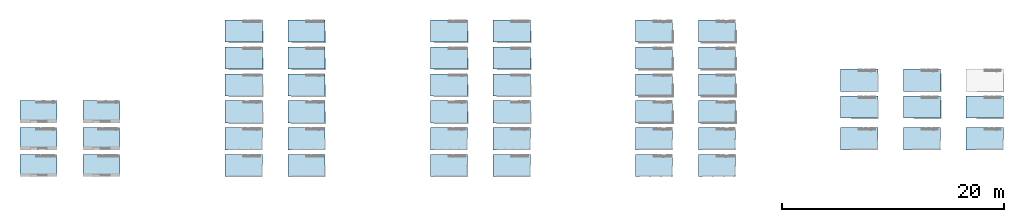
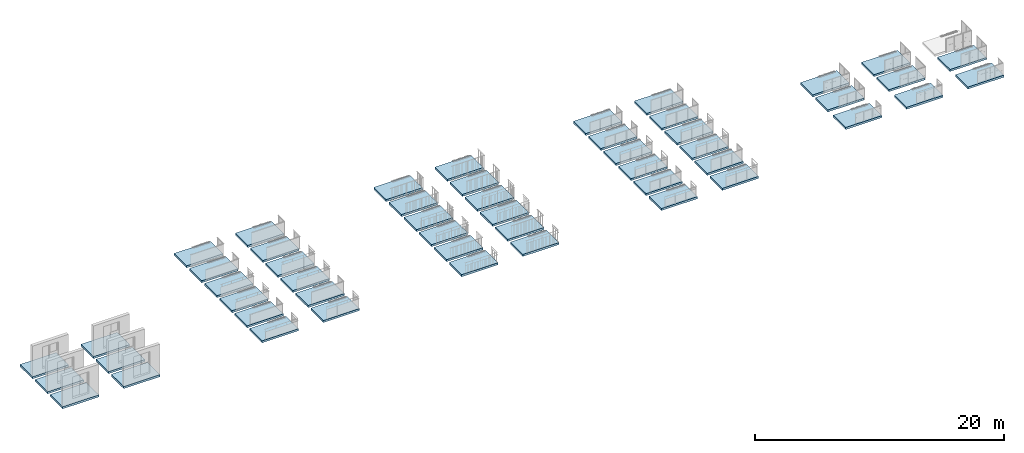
# One storey, part 1 of 8: 50 slabs.
"""IFC2X3 building model written with IfcOpenShell, lengths in millimetres."""

from ifc_helpers import new_model, entity, si_unit, converted_unit, derived_unit, money_unit, direction, frame, origin_with_axes, place, context, subcontext, project, spatial, polyline, outline, extrude, material, layer, layer_set, layer_usage, type_object, element, save


model = new_model("IFC2X3")

# Units and contexts
model_context = context("Model", 3, precision=1e-05, world=origin_with_axes(), true_north=direction((0.0, 1.0)))
body_context = subcontext(model_context, "Body", "Model", "MODEL_VIEW")
ifc_project = project(units=[si_unit("LENGTHUNIT", "METRE", prefix="MILLI"), si_unit("AREAUNIT", "SQUARE_METRE"), si_unit("VOLUMEUNIT", "CUBIC_METRE"), converted_unit("PLANEANGLEUNIT", "DEGREE", entity("IfcPlaneAngleMeasure", 0.0174532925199), si_unit("PLANEANGLEUNIT", "RADIAN"), dimensions=[0, 0, 0, 0, 0, 0, 0]), si_unit("SOLIDANGLEUNIT", "STERADIAN"), money_unit("USD"), converted_unit("TIMEUNIT", "Year", entity("IfcTimeMeasure", 31556926.0), si_unit("TIMEUNIT", "SECOND"), dimensions=[0, 0, 1, 0, 0, 0, 0]), si_unit("MASSUNIT", "GRAM", prefix="KILO"), si_unit("THERMODYNAMICTEMPERATUREUNIT", "DEGREE_CELSIUS"), si_unit("LUMINOUSINTENSITYUNIT", "LUMEN"), si_unit("ENERGYUNIT", "JOULE", prefix="MEGA"), derived_unit("THERMALCONDUCTANCEUNIT", [(si_unit("POWERUNIT", "WATT"), 1), (si_unit("LENGTHUNIT", "METRE"), -1), (si_unit("THERMODYNAMICTEMPERATUREUNIT", "KELVIN"), -1)]), derived_unit("SPECIFICHEATCAPACITYUNIT", [(si_unit("ENERGYUNIT", "JOULE"), 1), (si_unit("MASSUNIT", "GRAM", prefix="KILO"), -1), (si_unit("THERMODYNAMICTEMPERATUREUNIT", "KELVIN"), -1)]), derived_unit("MASSDENSITYUNIT", [(si_unit("MASSUNIT", "GRAM", prefix="KILO"), 1), (si_unit("VOLUMEUNIT", "CUBIC_METRE"), -1)])], contexts=[model_context])

# Site, building, storey
site_placement = place(None, origin_with_axes())
site = spatial("IfcSite", under=ifc_project, at=site_placement, Name="Site", CompositionType="ELEMENT")
building_placement = place(site_placement, origin_with_axes())
building = spatial("IfcBuilding", under=site, at=building_placement, Name="Building", CompositionType="ELEMENT")
storey_placement = place(building_placement, origin_with_axes())
storey = spatial("IfcBuildingStorey", under=building, at=storey_placement, Name="Ground Floor", CompositionType="ELEMENT", Elevation=0.0)

# Slabs
ifc_material = material(Name="GENERIC - EXTERNAL CLADDING")
ifc_layer = layer(ifc_material, 200.0, ventilated="UNKNOWN")
ifc_layer_set = layer_set([ifc_layer], Name="GENERIC - EXTERNAL CLADDING 200")
ifc_layer_usage_1 = layer_usage(ifc_layer_set, "AXIS3", "NEGATIVE", 200.0)
slab_type = type_object("IfcSlabType", Name="GENERIC - EXTERNAL CLADDING 200", PredefinedType="FLOOR")
slab_1_placement = place(storey_placement, frame((27057.905136, 3707.32727174, 0.0), z_axis=(0.0, 0.0, 1.0), x_axis=(1.0, 0.0, 0.0)))
element("IfcSlab", 1, at=slab_1_placement, inside=storey, type_object=slab_type, material=ifc_layer_usage_1, Name="SLA - 001", PredefinedType="FLOOR", context=body_context, shape_type="SweptSolid", body=[
    extrude(outline(polyline([(0.0, 0.0), (0.0, -2000.0), (3355.32371751, -2000.0), (3355.32371751, 0.0), (0.0, 0.0)])), frame((0.0, 0.0, -200.0), z_axis=(0.0, 0.0, 1.0), x_axis=(1.0, 0.0, 0.0)), (0.0, 0.0, 1.0), 200.0),
])
ifc_layer_usage_2 = layer_usage(ifc_layer_set, "AXIS3", "NEGATIVE", 200.0)
slab_2_placement = place(storey_placement, frame((27057.905136, 13399.6699494, 0.0), z_axis=(0.0, 0.0, 1.0), x_axis=(1.0, 0.0, 0.0)))
element("IfcSlab", 2, at=slab_2_placement, inside=storey, type_object=slab_type, material=ifc_layer_usage_2, Name="SLA - 001", PredefinedType="FLOOR", context=body_context, shape_type="SweptSolid", body=[
    extrude(outline(polyline([(0.0, 0.0), (0.0, -2000.0), (3355.32371751, -2000.0), (3355.32371751, 0.0), (0.0, 0.0)])), frame((0.0, 0.0, -200.0), z_axis=(0.0, 0.0, 1.0), x_axis=(1.0, 0.0, 0.0)), (0.0, 0.0, 1.0), 200.0),
])
ifc_layer_usage_3 = layer_usage(ifc_layer_set, "AXIS3", "NEGATIVE", 200.0)
slab_3_placement = place(storey_placement, frame((27057.905136, 6130.41294117, 0.0), z_axis=(0.0, 0.0, 1.0), x_axis=(1.0, 0.0, 0.0)))
element("IfcSlab", 3, at=slab_3_placement, inside=storey, type_object=slab_type, material=ifc_layer_usage_3, Name="SLA - 001", PredefinedType="FLOOR", context=body_context, shape_type="SweptSolid", body=[
    extrude(outline(polyline([(0.0, 0.0), (0.0, -2000.0), (3355.32371751, -2000.0), (3355.32371751, 0.0), (0.0, 0.0)])), frame((0.0, 0.0, -200.0), z_axis=(0.0, 0.0, 1.0), x_axis=(1.0, 0.0, 0.0)), (0.0, 0.0, 1.0), 200.0),
])
ifc_layer_usage_4 = layer_usage(ifc_layer_set, "AXIS3", "NEGATIVE", 200.0)
slab_4_placement = place(storey_placement, frame((27057.905136, 8553.49861059, 0.0), z_axis=(0.0, 0.0, 1.0), x_axis=(1.0, 0.0, 0.0)))
element("IfcSlab", 4, at=slab_4_placement, inside=storey, type_object=slab_type, material=ifc_layer_usage_4, Name="SLA - 001", PredefinedType="FLOOR", context=body_context, shape_type="SweptSolid", body=[
    extrude(outline(polyline([(0.0, 0.0), (0.0, -2000.0), (3355.32371751, -2000.0), (3355.32371751, 0.0), (0.0, 0.0)])), frame((0.0, 0.0, -200.0), z_axis=(0.0, 0.0, 1.0), x_axis=(1.0, 0.0, 0.0)), (0.0, 0.0, 1.0), 200.0),
])
ifc_layer_usage_5 = layer_usage(ifc_layer_set, "AXIS3", "NEGATIVE", 200.0)
slab_5_placement = place(storey_placement, frame((27057.905136, 15822.7556189, 0.0), z_axis=(0.0, 0.0, 1.0), x_axis=(1.0, 0.0, 0.0)))
element("IfcSlab", 5, at=slab_5_placement, inside=storey, type_object=slab_type, material=ifc_layer_usage_5, Name="SLA - 001", PredefinedType="FLOOR", context=body_context, shape_type="SweptSolid", body=[
    extrude(outline(polyline([(0.0, 0.0), (0.0, -2000.0), (3355.32371751, -2000.0), (3355.32371751, 0.0), (0.0, 0.0)])), frame((0.0, 0.0, -200.0), z_axis=(0.0, 0.0, 1.0), x_axis=(1.0, 0.0, 0.0)), (0.0, 0.0, 1.0), 200.0),
])
ifc_layer_usage_6 = layer_usage(ifc_layer_set, "AXIS3", "NEGATIVE", 200.0)
slab_6_placement = place(storey_placement, frame((27057.905136, 10976.58428, 0.0), z_axis=(0.0, 0.0, 1.0), x_axis=(1.0, 0.0, 0.0)))
element("IfcSlab", 6, at=slab_6_placement, inside=storey, type_object=slab_type, material=ifc_layer_usage_6, Name="SLA - 001", PredefinedType="FLOOR", context=body_context, shape_type="SweptSolid", body=[
    extrude(outline(polyline([(0.0, 0.0), (0.0, -2000.0), (3355.32371751, -2000.0), (3355.32371751, 0.0), (0.0, 0.0)])), frame((0.0, 0.0, -200.0), z_axis=(0.0, 0.0, 1.0), x_axis=(1.0, 0.0, 0.0)), (0.0, 0.0, 1.0), 200.0),
])
ifc_layer_usage_7 = layer_usage(ifc_layer_set, "AXIS3", "NEGATIVE", 200.0)
slab_7_placement = place(storey_placement, frame((32712.6464532, 6130.41294117, 0.0), z_axis=(0.0, 0.0, 1.0), x_axis=(1.0, 0.0, 0.0)))
element("IfcSlab", 7, at=slab_7_placement, inside=storey, type_object=slab_type, material=ifc_layer_usage_7, Name="SLA - 001", PredefinedType="FLOOR", context=body_context, shape_type="SweptSolid", body=[
    extrude(outline(polyline([(0.0, 0.0), (0.0, -2000.0), (3355.32371751, -2000.0), (3355.32371751, 0.0), (0.0, 0.0)])), frame((0.0, 0.0, -200.0), z_axis=(0.0, 0.0, 1.0), x_axis=(1.0, 0.0, 0.0)), (0.0, 0.0, 1.0), 200.0),
])
ifc_layer_usage_8 = layer_usage(ifc_layer_set, "AXIS3", "NEGATIVE", 200.0)
slab_8_placement = place(storey_placement, frame((32712.6464532, 8553.49861059, 0.0), z_axis=(0.0, 0.0, 1.0), x_axis=(1.0, 0.0, 0.0)))
element("IfcSlab", 8, at=slab_8_placement, inside=storey, type_object=slab_type, material=ifc_layer_usage_8, Name="SLA - 001", PredefinedType="FLOOR", context=body_context, shape_type="SweptSolid", body=[
    extrude(outline(polyline([(0.0, 0.0), (0.0, -2000.0), (3355.32371751, -2000.0), (3355.32371751, 0.0), (0.0, 0.0)])), frame((0.0, 0.0, -200.0), z_axis=(0.0, 0.0, 1.0), x_axis=(1.0, 0.0, 0.0)), (0.0, 0.0, 1.0), 200.0),
])
ifc_layer_usage_9 = layer_usage(ifc_layer_set, "AXIS3", "NEGATIVE", 200.0)
slab_9_placement = place(storey_placement, frame((32712.6464532, 10976.58428, 0.0), z_axis=(0.0, 0.0, 1.0), x_axis=(1.0, 0.0, 0.0)))
element("IfcSlab", 9, at=slab_9_placement, inside=storey, type_object=slab_type, material=ifc_layer_usage_9, Name="SLA - 001", PredefinedType="FLOOR", context=body_context, shape_type="SweptSolid", body=[
    extrude(outline(polyline([(0.0, 0.0), (0.0, -2000.0), (3355.32371751, -2000.0), (3355.32371751, 0.0), (0.0, 0.0)])), frame((0.0, 0.0, -200.0), z_axis=(0.0, 0.0, 1.0), x_axis=(1.0, 0.0, 0.0)), (0.0, 0.0, 1.0), 200.0),
])
ifc_layer_usage_10 = layer_usage(ifc_layer_set, "AXIS3", "NEGATIVE", 200.0)
slab_10_placement = place(storey_placement, frame((32712.6464532, 13399.6699494, 0.0), z_axis=(0.0, 0.0, 1.0), x_axis=(1.0, 0.0, 0.0)))
element("IfcSlab", 10, at=slab_10_placement, inside=storey, type_object=slab_type, material=ifc_layer_usage_10, Name="SLA - 001", PredefinedType="FLOOR", context=body_context, shape_type="SweptSolid", body=[
    extrude(outline(polyline([(0.0, 0.0), (0.0, -2000.0), (3355.32371751, -2000.0), (3355.32371751, 0.0), (0.0, 0.0)])), frame((0.0, 0.0, -200.0), z_axis=(0.0, 0.0, 1.0), x_axis=(1.0, 0.0, 0.0)), (0.0, 0.0, 1.0), 200.0),
])
ifc_layer_usage_11 = layer_usage(ifc_layer_set, "AXIS3", "NEGATIVE", 200.0)
slab_11_placement = place(storey_placement, frame((32712.6464532, 15822.7556189, 0.0), z_axis=(0.0, 0.0, 1.0), x_axis=(1.0, 0.0, 0.0)))
element("IfcSlab", 11, at=slab_11_placement, inside=storey, type_object=slab_type, material=ifc_layer_usage_11, Name="SLA - 001", PredefinedType="FLOOR", context=body_context, shape_type="SweptSolid", body=[
    extrude(outline(polyline([(0.0, 0.0), (0.0, -2000.0), (3355.32371751, -2000.0), (3355.32371751, 0.0), (0.0, 0.0)])), frame((0.0, 0.0, -200.0), z_axis=(0.0, 0.0, 1.0), x_axis=(1.0, 0.0, 0.0)), (0.0, 0.0, 1.0), 200.0),
])
ifc_layer_usage_12 = layer_usage(ifc_layer_set, "AXIS3", "NEGATIVE", 200.0)
slab_12_placement = place(storey_placement, frame((32712.6464532, 3707.32727174, 0.0), z_axis=(0.0, 0.0, 1.0), x_axis=(1.0, 0.0, 0.0)))
element("IfcSlab", 12, at=slab_12_placement, inside=storey, type_object=slab_type, material=ifc_layer_usage_12, Name="SLA - 001", PredefinedType="FLOOR", context=body_context, shape_type="SweptSolid", body=[
    extrude(outline(polyline([(0.0, 0.0), (0.0, -2000.0), (3355.32371751, -2000.0), (3355.32371751, 0.0), (0.0, 0.0)])), frame((0.0, 0.0, -200.0), z_axis=(0.0, 0.0, 1.0), x_axis=(1.0, 0.0, 0.0)), (0.0, 0.0, 1.0), 200.0),
])
ifc_layer_usage_13 = layer_usage(ifc_layer_set, "AXIS3", "NEGATIVE", 200.0)
slab_13_placement = place(storey_placement, frame((8575.41234838, 6130.41294117, 0.0), z_axis=(0.0, 0.0, 1.0), x_axis=(1.0, 0.0, 0.0)))
element("IfcSlab", 13, at=slab_13_placement, inside=storey, type_object=slab_type, material=ifc_layer_usage_13, Name="SLA - 001", PredefinedType="FLOOR", context=body_context, shape_type="SweptSolid", body=[
    extrude(outline(polyline([(0.0, 0.0), (0.0, -2000.0), (3355.32371751, -2000.0), (3355.32371751, 0.0), (0.0, 0.0)])), frame((0.0, 0.0, -200.0), z_axis=(0.0, 0.0, 1.0), x_axis=(1.0, 0.0, 0.0)), (0.0, 0.0, 1.0), 200.0),
])
ifc_layer_usage_14 = layer_usage(ifc_layer_set, "AXIS3", "NEGATIVE", 200.0)
slab_14_placement = place(storey_placement, frame((8575.41234838, 8553.49861059, 0.0), z_axis=(0.0, 0.0, 1.0), x_axis=(1.0, 0.0, 0.0)))
element("IfcSlab", 14, at=slab_14_placement, inside=storey, type_object=slab_type, material=ifc_layer_usage_14, Name="SLA - 001", PredefinedType="FLOOR", context=body_context, shape_type="SweptSolid", body=[
    extrude(outline(polyline([(0.0, 0.0), (0.0, -2000.0), (3355.32371751, -2000.0), (3355.32371751, 0.0), (0.0, 0.0)])), frame((0.0, 0.0, -200.0), z_axis=(0.0, 0.0, 1.0), x_axis=(1.0, 0.0, 0.0)), (0.0, 0.0, 1.0), 200.0),
])
ifc_layer_usage_15 = layer_usage(ifc_layer_set, "AXIS3", "NEGATIVE", 200.0)
slab_15_placement = place(storey_placement, frame((8575.41234838, 10976.58428, 0.0), z_axis=(0.0, 0.0, 1.0), x_axis=(1.0, 0.0, 0.0)))
element("IfcSlab", 15, at=slab_15_placement, inside=storey, type_object=slab_type, material=ifc_layer_usage_15, Name="SLA - 001", PredefinedType="FLOOR", context=body_context, shape_type="SweptSolid", body=[
    extrude(outline(polyline([(0.0, 0.0), (0.0, -2000.0), (3355.32371751, -2000.0), (3355.32371751, 0.0), (0.0, 0.0)])), frame((0.0, 0.0, -200.0), z_axis=(0.0, 0.0, 1.0), x_axis=(1.0, 0.0, 0.0)), (0.0, 0.0, 1.0), 200.0),
])
ifc_layer_usage_16 = layer_usage(ifc_layer_set, "AXIS3", "NEGATIVE", 200.0)
slab_16_placement = place(storey_placement, frame((8575.41234838, 13399.6699494, 0.0), z_axis=(0.0, 0.0, 1.0), x_axis=(1.0, 0.0, 0.0)))
element("IfcSlab", 16, at=slab_16_placement, inside=storey, type_object=slab_type, material=ifc_layer_usage_16, Name="SLA - 001", PredefinedType="FLOOR", context=body_context, shape_type="SweptSolid", body=[
    extrude(outline(polyline([(0.0, 0.0), (0.0, -2000.0), (3355.32371751, -2000.0), (3355.32371751, 0.0), (0.0, 0.0)])), frame((0.0, 0.0, -200.0), z_axis=(0.0, 0.0, 1.0), x_axis=(1.0, 0.0, 0.0)), (0.0, 0.0, 1.0), 200.0),
])
ifc_layer_usage_17 = layer_usage(ifc_layer_set, "AXIS3", "NEGATIVE", 200.0)
slab_17_placement = place(storey_placement, frame((8575.41234838, 15822.7556189, 0.0), z_axis=(0.0, 0.0, 1.0), x_axis=(1.0, 0.0, 0.0)))
element("IfcSlab", 17, at=slab_17_placement, inside=storey, type_object=slab_type, material=ifc_layer_usage_17, Name="SLA - 001", PredefinedType="FLOOR", context=body_context, shape_type="SweptSolid", body=[
    extrude(outline(polyline([(0.0, 0.0), (0.0, -2000.0), (3355.32371751, -2000.0), (3355.32371751, 0.0), (0.0, 0.0)])), frame((0.0, 0.0, -200.0), z_axis=(0.0, 0.0, 1.0), x_axis=(1.0, 0.0, 0.0)), (0.0, 0.0, 1.0), 200.0),
])
ifc_layer_usage_18 = layer_usage(ifc_layer_set, "AXIS3", "NEGATIVE", 200.0)
slab_18_placement = place(storey_placement, frame((8575.41234838, 3707.32727174, 0.0), z_axis=(0.0, 0.0, 1.0), x_axis=(1.0, 0.0, 0.0)))
element("IfcSlab", 18, at=slab_18_placement, inside=storey, type_object=slab_type, material=ifc_layer_usage_18, Name="SLA - 001", PredefinedType="FLOOR", context=body_context, shape_type="SweptSolid", body=[
    extrude(outline(polyline([(0.0, 0.0), (0.0, -2000.0), (3355.32371751, -2000.0), (3355.32371751, 0.0), (0.0, 0.0)])), frame((0.0, 0.0, -200.0), z_axis=(0.0, 0.0, 1.0), x_axis=(1.0, 0.0, 0.0)), (0.0, 0.0, 1.0), 200.0),
])
ifc_layer_usage_19 = layer_usage(ifc_layer_set, "AXIS3", "NEGATIVE", 200.0)
slab_19_placement = place(storey_placement, frame((14230.1536655, 6130.41294117, 0.0), z_axis=(0.0, 0.0, 1.0), x_axis=(1.0, 0.0, 0.0)))
element("IfcSlab", 19, at=slab_19_placement, inside=storey, type_object=slab_type, material=ifc_layer_usage_19, Name="SLA - 001", PredefinedType="FLOOR", context=body_context, shape_type="SweptSolid", body=[
    extrude(outline(polyline([(0.0, 0.0), (0.0, -2000.0), (3355.32371751, -2000.0), (3355.32371751, 0.0), (0.0, 0.0)])), frame((0.0, 0.0, -200.0), z_axis=(0.0, 0.0, 1.0), x_axis=(1.0, 0.0, 0.0)), (0.0, 0.0, 1.0), 200.0),
])
ifc_layer_usage_20 = layer_usage(ifc_layer_set, "AXIS3", "NEGATIVE", 200.0)
slab_20_placement = place(storey_placement, frame((14230.1536655, 8553.49861059, 0.0), z_axis=(0.0, 0.0, 1.0), x_axis=(1.0, 0.0, 0.0)))
element("IfcSlab", 20, at=slab_20_placement, inside=storey, type_object=slab_type, material=ifc_layer_usage_20, Name="SLA - 001", PredefinedType="FLOOR", context=body_context, shape_type="SweptSolid", body=[
    extrude(outline(polyline([(0.0, 0.0), (0.0, -2000.0), (3355.32371751, -2000.0), (3355.32371751, 0.0), (0.0, 0.0)])), frame((0.0, 0.0, -200.0), z_axis=(0.0, 0.0, 1.0), x_axis=(1.0, 0.0, 0.0)), (0.0, 0.0, 1.0), 200.0),
])
ifc_layer_usage_21 = layer_usage(ifc_layer_set, "AXIS3", "NEGATIVE", 200.0)
slab_21_placement = place(storey_placement, frame((14230.1536655, 10976.58428, 0.0), z_axis=(0.0, 0.0, 1.0), x_axis=(1.0, 0.0, 0.0)))
element("IfcSlab", 21, at=slab_21_placement, inside=storey, type_object=slab_type, material=ifc_layer_usage_21, Name="SLA - 001", PredefinedType="FLOOR", context=body_context, shape_type="SweptSolid", body=[
    extrude(outline(polyline([(0.0, 0.0), (0.0, -2000.0), (3355.32371751, -2000.0), (3355.32371751, 0.0), (0.0, 0.0)])), frame((0.0, 0.0, -200.0), z_axis=(0.0, 0.0, 1.0), x_axis=(1.0, 0.0, 0.0)), (0.0, 0.0, 1.0), 200.0),
])
ifc_layer_usage_22 = layer_usage(ifc_layer_set, "AXIS3", "NEGATIVE", 200.0)
slab_22_placement = place(storey_placement, frame((14230.1536655, 13399.6699494, 0.0), z_axis=(0.0, 0.0, 1.0), x_axis=(1.0, 0.0, 0.0)))
element("IfcSlab", 22, at=slab_22_placement, inside=storey, type_object=slab_type, material=ifc_layer_usage_22, Name="SLA - 001", PredefinedType="FLOOR", context=body_context, shape_type="SweptSolid", body=[
    extrude(outline(polyline([(0.0, 0.0), (0.0, -2000.0), (3355.32371751, -2000.0), (3355.32371751, 0.0), (0.0, 0.0)])), frame((0.0, 0.0, -200.0), z_axis=(0.0, 0.0, 1.0), x_axis=(1.0, 0.0, 0.0)), (0.0, 0.0, 1.0), 200.0),
])
ifc_layer_usage_23 = layer_usage(ifc_layer_set, "AXIS3", "NEGATIVE", 200.0)
slab_23_placement = place(storey_placement, frame((14230.1536655, 15822.7556189, 0.0), z_axis=(0.0, 0.0, 1.0), x_axis=(1.0, 0.0, 0.0)))
element("IfcSlab", 23, at=slab_23_placement, inside=storey, type_object=slab_type, material=ifc_layer_usage_23, Name="SLA - 001", PredefinedType="FLOOR", context=body_context, shape_type="SweptSolid", body=[
    extrude(outline(polyline([(0.0, 0.0), (0.0, -2000.0), (3355.32371751, -2000.0), (3355.32371751, 0.0), (0.0, 0.0)])), frame((0.0, 0.0, -200.0), z_axis=(0.0, 0.0, 1.0), x_axis=(1.0, 0.0, 0.0)), (0.0, 0.0, 1.0), 200.0),
])
ifc_layer_usage_24 = layer_usage(ifc_layer_set, "AXIS3", "NEGATIVE", 200.0)
slab_24_placement = place(storey_placement, frame((14230.1536655, 3707.32727174, 0.0), z_axis=(0.0, 0.0, 1.0), x_axis=(1.0, 0.0, 0.0)))
element("IfcSlab", 24, at=slab_24_placement, inside=storey, type_object=slab_type, material=ifc_layer_usage_24, Name="SLA - 001", PredefinedType="FLOOR", context=body_context, shape_type="SweptSolid", body=[
    extrude(outline(polyline([(0.0, 0.0), (0.0, -2000.0), (3355.32371751, -2000.0), (3355.32371751, 0.0), (0.0, 0.0)])), frame((0.0, 0.0, -200.0), z_axis=(0.0, 0.0, 1.0), x_axis=(1.0, 0.0, 0.0)), (0.0, 0.0, 1.0), 200.0),
])
ifc_layer_usage_25 = layer_usage(ifc_layer_set, "AXIS3", "NEGATIVE", 200.0)
slab_25_placement = place(storey_placement, frame((-9907.08043929, 6130.41294117, 0.0), z_axis=(0.0, 0.0, 1.0), x_axis=(1.0, 0.0, 0.0)))
element("IfcSlab", 25, at=slab_25_placement, inside=storey, type_object=slab_type, material=ifc_layer_usage_25, Name="SLA - 001", PredefinedType="FLOOR", context=body_context, shape_type="SweptSolid", body=[
    extrude(outline(polyline([(0.0, 0.0), (0.0, -2000.0), (3355.32371751, -2000.0), (3355.32371751, 0.0), (0.0, 0.0)])), frame((0.0, 0.0, -200.0), z_axis=(0.0, 0.0, 1.0), x_axis=(1.0, 0.0, 0.0)), (0.0, 0.0, 1.0), 200.0),
])
ifc_layer_usage_26 = layer_usage(ifc_layer_set, "AXIS3", "NEGATIVE", 200.0)
slab_26_placement = place(storey_placement, frame((-9907.08043929, 8553.49861059, 0.0), z_axis=(0.0, 0.0, 1.0), x_axis=(1.0, 0.0, 0.0)))
element("IfcSlab", 26, at=slab_26_placement, inside=storey, type_object=slab_type, material=ifc_layer_usage_26, Name="SLA - 001", PredefinedType="FLOOR", context=body_context, shape_type="SweptSolid", body=[
    extrude(outline(polyline([(0.0, 0.0), (0.0, -2000.0), (3355.32371751, -2000.0), (3355.32371751, 0.0), (0.0, 0.0)])), frame((0.0, 0.0, -200.0), z_axis=(0.0, 0.0, 1.0), x_axis=(1.0, 0.0, 0.0)), (0.0, 0.0, 1.0), 200.0),
])
ifc_layer_usage_27 = layer_usage(ifc_layer_set, "AXIS3", "NEGATIVE", 200.0)
slab_27_placement = place(storey_placement, frame((-9907.08043929, 10976.58428, 0.0), z_axis=(0.0, 0.0, 1.0), x_axis=(1.0, 0.0, 0.0)))
element("IfcSlab", 27, at=slab_27_placement, inside=storey, type_object=slab_type, material=ifc_layer_usage_27, Name="SLA - 001", PredefinedType="FLOOR", context=body_context, shape_type="SweptSolid", body=[
    extrude(outline(polyline([(0.0, 0.0), (0.0, -2000.0), (3355.32371751, -2000.0), (3355.32371751, 0.0), (0.0, 0.0)])), frame((0.0, 0.0, -200.0), z_axis=(0.0, 0.0, 1.0), x_axis=(1.0, 0.0, 0.0)), (0.0, 0.0, 1.0), 200.0),
])
ifc_layer_usage_28 = layer_usage(ifc_layer_set, "AXIS3", "NEGATIVE", 200.0)
slab_28_placement = place(storey_placement, frame((-9907.08043929, 13399.6699494, 0.0), z_axis=(0.0, 0.0, 1.0), x_axis=(1.0, 0.0, 0.0)))
element("IfcSlab", 28, at=slab_28_placement, inside=storey, type_object=slab_type, material=ifc_layer_usage_28, Name="SLA - 001", PredefinedType="FLOOR", context=body_context, shape_type="SweptSolid", body=[
    extrude(outline(polyline([(0.0, 0.0), (0.0, -2000.0), (3355.32371751, -2000.0), (3355.32371751, 0.0), (0.0, 0.0)])), frame((0.0, 0.0, -200.0), z_axis=(0.0, 0.0, 1.0), x_axis=(1.0, 0.0, 0.0)), (0.0, 0.0, 1.0), 200.0),
])
ifc_layer_usage_29 = layer_usage(ifc_layer_set, "AXIS3", "NEGATIVE", 200.0)
slab_29_placement = place(storey_placement, frame((-9907.08043929, 15822.7556189, 0.0), z_axis=(0.0, 0.0, 1.0), x_axis=(1.0, 0.0, 0.0)))
element("IfcSlab", 29, at=slab_29_placement, inside=storey, type_object=slab_type, material=ifc_layer_usage_29, Name="SLA - 001", PredefinedType="FLOOR", context=body_context, shape_type="SweptSolid", body=[
    extrude(outline(polyline([(0.0, 0.0), (0.0, -2000.0), (3355.32371751, -2000.0), (3355.32371751, 0.0), (0.0, 0.0)])), frame((0.0, 0.0, -200.0), z_axis=(0.0, 0.0, 1.0), x_axis=(1.0, 0.0, 0.0)), (0.0, 0.0, 1.0), 200.0),
])
ifc_layer_usage_30 = layer_usage(ifc_layer_set, "AXIS3", "NEGATIVE", 200.0)
slab_30_placement = place(storey_placement, frame((-9907.08043929, 3707.32727174, 0.0), z_axis=(0.0, 0.0, 1.0), x_axis=(1.0, 0.0, 0.0)))
element("IfcSlab", 30, at=slab_30_placement, inside=storey, type_object=slab_type, material=ifc_layer_usage_30, Name="SLA - 001", PredefinedType="FLOOR", context=body_context, shape_type="SweptSolid", body=[
    extrude(outline(polyline([(0.0, 0.0), (0.0, -2000.0), (3355.32371751, -2000.0), (3355.32371751, 0.0), (0.0, 0.0)])), frame((0.0, 0.0, -200.0), z_axis=(0.0, 0.0, 1.0), x_axis=(1.0, 0.0, 0.0)), (0.0, 0.0, 1.0), 200.0),
])
ifc_layer_usage_31 = layer_usage(ifc_layer_set, "AXIS3", "NEGATIVE", 200.0)
slab_31_placement = place(storey_placement, frame((-4252.33912215, 6130.41294117, 0.0), z_axis=(0.0, 0.0, 1.0), x_axis=(1.0, 0.0, 0.0)))
element("IfcSlab", 31, at=slab_31_placement, inside=storey, type_object=slab_type, material=ifc_layer_usage_31, Name="SLA - 001", PredefinedType="FLOOR", context=body_context, shape_type="SweptSolid", body=[
    extrude(outline(polyline([(0.0, 0.0), (0.0, -2000.0), (3355.32371751, -2000.0), (3355.32371751, 0.0), (0.0, 0.0)])), frame((0.0, 0.0, -200.0), z_axis=(0.0, 0.0, 1.0), x_axis=(1.0, 0.0, 0.0)), (0.0, 0.0, 1.0), 200.0),
])
ifc_layer_usage_32 = layer_usage(ifc_layer_set, "AXIS3", "NEGATIVE", 200.0)
slab_32_placement = place(storey_placement, frame((-4252.33912215, 8553.49861059, 0.0), z_axis=(0.0, 0.0, 1.0), x_axis=(1.0, 0.0, 0.0)))
element("IfcSlab", 32, at=slab_32_placement, inside=storey, type_object=slab_type, material=ifc_layer_usage_32, Name="SLA - 001", PredefinedType="FLOOR", context=body_context, shape_type="SweptSolid", body=[
    extrude(outline(polyline([(0.0, 0.0), (0.0, -2000.0), (3355.32371751, -2000.0), (3355.32371751, 0.0), (0.0, 0.0)])), frame((0.0, 0.0, -200.0), z_axis=(0.0, 0.0, 1.0), x_axis=(1.0, 0.0, 0.0)), (0.0, 0.0, 1.0), 200.0),
])
ifc_layer_usage_33 = layer_usage(ifc_layer_set, "AXIS3", "NEGATIVE", 200.0)
slab_33_placement = place(storey_placement, frame((-4252.33912215, 10976.58428, 0.0), z_axis=(0.0, 0.0, 1.0), x_axis=(1.0, 0.0, 0.0)))
element("IfcSlab", 33, at=slab_33_placement, inside=storey, type_object=slab_type, material=ifc_layer_usage_33, Name="SLA - 001", PredefinedType="FLOOR", context=body_context, shape_type="SweptSolid", body=[
    extrude(outline(polyline([(0.0, 0.0), (0.0, -2000.0), (3355.32371751, -2000.0), (3355.32371751, 0.0), (0.0, 0.0)])), frame((0.0, 0.0, -200.0), z_axis=(0.0, 0.0, 1.0), x_axis=(1.0, 0.0, 0.0)), (0.0, 0.0, 1.0), 200.0),
])
ifc_layer_usage_34 = layer_usage(ifc_layer_set, "AXIS3", "NEGATIVE", 200.0)
slab_34_placement = place(storey_placement, frame((-4252.33912215, 13399.6699494, 0.0), z_axis=(0.0, 0.0, 1.0), x_axis=(1.0, 0.0, 0.0)))
element("IfcSlab", 34, at=slab_34_placement, inside=storey, type_object=slab_type, material=ifc_layer_usage_34, Name="SLA - 001", PredefinedType="FLOOR", context=body_context, shape_type="SweptSolid", body=[
    extrude(outline(polyline([(0.0, 0.0), (0.0, -2000.0), (3355.32371751, -2000.0), (3355.32371751, 0.0), (0.0, 0.0)])), frame((0.0, 0.0, -200.0), z_axis=(0.0, 0.0, 1.0), x_axis=(1.0, 0.0, 0.0)), (0.0, 0.0, 1.0), 200.0),
])
ifc_layer_usage_35 = layer_usage(ifc_layer_set, "AXIS3", "NEGATIVE", 200.0)
slab_35_placement = place(storey_placement, frame((-4252.33912215, 15822.7556189, 0.0), z_axis=(0.0, 0.0, 1.0), x_axis=(1.0, 0.0, 0.0)))
element("IfcSlab", 35, at=slab_35_placement, inside=storey, type_object=slab_type, material=ifc_layer_usage_35, Name="SLA - 001", PredefinedType="FLOOR", context=body_context, shape_type="SweptSolid", body=[
    extrude(outline(polyline([(0.0, 0.0), (0.0, -2000.0), (3355.32371751, -2000.0), (3355.32371751, 0.0), (0.0, 0.0)])), frame((0.0, 0.0, -200.0), z_axis=(0.0, 0.0, 1.0), x_axis=(1.0, 0.0, 0.0)), (0.0, 0.0, 1.0), 200.0),
])
ifc_layer_usage_36 = layer_usage(ifc_layer_set, "AXIS3", "NEGATIVE", 200.0)
slab_36_placement = place(storey_placement, frame((-4252.33912215, 3707.32727174, 0.0), z_axis=(0.0, 0.0, 1.0), x_axis=(1.0, 0.0, 0.0)))
element("IfcSlab", 36, at=slab_36_placement, inside=storey, type_object=slab_type, material=ifc_layer_usage_36, Name="SLA - 001", PredefinedType="FLOOR", context=body_context, shape_type="SweptSolid", body=[
    extrude(outline(polyline([(0.0, 0.0), (0.0, -2000.0), (3355.32371751, -2000.0), (3355.32371751, 0.0), (0.0, 0.0)])), frame((0.0, 0.0, -200.0), z_axis=(0.0, 0.0, 1.0), x_axis=(1.0, 0.0, 0.0)), (0.0, 0.0, 1.0), 200.0),
])
ifc_layer_usage_37 = layer_usage(ifc_layer_set, "AXIS3", "NEGATIVE", 200.0)
slab_37_placement = place(storey_placement, frame((-28389.5732269, 6130.41294117, 0.0), z_axis=(0.0, 0.0, 1.0), x_axis=(1.0, 0.0, 0.0)))
element("IfcSlab", 37, at=slab_37_placement, inside=storey, type_object=slab_type, material=ifc_layer_usage_37, Name="SLA - 001", PredefinedType="FLOOR", context=body_context, shape_type="SweptSolid", body=[
    extrude(outline(polyline([(0.0, 0.0), (0.0, -2000.0), (3355.32371751, -2000.0), (3355.32371751, 0.0), (0.0, 0.0)])), frame((0.0, 0.0, -200.0), z_axis=(0.0, 0.0, 1.0), x_axis=(1.0, 0.0, 0.0)), (0.0, 0.0, 1.0), 200.0),
])
ifc_layer_usage_38 = layer_usage(ifc_layer_set, "AXIS3", "NEGATIVE", 200.0)
slab_38_placement = place(storey_placement, frame((-28389.5732269, 8553.49861059, 0.0), z_axis=(0.0, 0.0, 1.0), x_axis=(1.0, 0.0, 0.0)))
element("IfcSlab", 38, at=slab_38_placement, inside=storey, type_object=slab_type, material=ifc_layer_usage_38, Name="SLA - 001", PredefinedType="FLOOR", context=body_context, shape_type="SweptSolid", body=[
    extrude(outline(polyline([(0.0, 0.0), (0.0, -2000.0), (3355.32371751, -2000.0), (3355.32371751, 0.0), (0.0, 0.0)])), frame((0.0, 0.0, -200.0), z_axis=(0.0, 0.0, 1.0), x_axis=(1.0, 0.0, 0.0)), (0.0, 0.0, 1.0), 200.0),
])
ifc_layer_usage_39 = layer_usage(ifc_layer_set, "AXIS3", "NEGATIVE", 200.0)
slab_39_placement = place(storey_placement, frame((-28389.5732269, 3707.32727174, 0.0), z_axis=(0.0, 0.0, 1.0), x_axis=(1.0, 0.0, 0.0)))
element("IfcSlab", 39, at=slab_39_placement, inside=storey, type_object=slab_type, material=ifc_layer_usage_39, Name="SLA - 001", PredefinedType="FLOOR", context=body_context, shape_type="SweptSolid", body=[
    extrude(outline(polyline([(0.0, 0.0), (0.0, -2000.0), (3355.32371751, -2000.0), (3355.32371751, 0.0), (0.0, 0.0)])), frame((0.0, 0.0, -200.0), z_axis=(0.0, 0.0, 1.0), x_axis=(1.0, 0.0, 0.0)), (0.0, 0.0, 1.0), 200.0),
])
ifc_layer_usage_40 = layer_usage(ifc_layer_set, "AXIS3", "NEGATIVE", 200.0)
slab_40_placement = place(storey_placement, frame((-22734.8319098, 3707.32727174, 0.0), z_axis=(0.0, 0.0, 1.0), x_axis=(1.0, 0.0, 0.0)))
element("IfcSlab", 40, at=slab_40_placement, inside=storey, type_object=slab_type, material=ifc_layer_usage_40, Name="SLA - 001", PredefinedType="FLOOR", context=body_context, shape_type="SweptSolid", body=[
    extrude(outline(polyline([(0.0, 0.0), (0.0, -2000.0), (3355.32371751, -2000.0), (3355.32371751, 0.0), (0.0, 0.0)])), frame((0.0, 0.0, -200.0), z_axis=(0.0, 0.0, 1.0), x_axis=(1.0, 0.0, 0.0)), (0.0, 0.0, 1.0), 200.0),
])
ifc_layer_usage_41 = layer_usage(ifc_layer_set, "AXIS3", "NEGATIVE", 200.0)
slab_41_placement = place(storey_placement, frame((-22734.8319098, 6130.41294117, 0.0), z_axis=(0.0, 0.0, 1.0), x_axis=(1.0, 0.0, 0.0)))
element("IfcSlab", 41, at=slab_41_placement, inside=storey, type_object=slab_type, material=ifc_layer_usage_41, Name="SLA - 001", PredefinedType="FLOOR", context=body_context, shape_type="SweptSolid", body=[
    extrude(outline(polyline([(0.0, 0.0), (0.0, -2000.0), (3355.32371751, -2000.0), (3355.32371751, 0.0), (0.0, 0.0)])), frame((0.0, 0.0, -200.0), z_axis=(0.0, 0.0, 1.0), x_axis=(1.0, 0.0, 0.0)), (0.0, 0.0, 1.0), 200.0),
])
ifc_layer_usage_42 = layer_usage(ifc_layer_set, "AXIS3", "NEGATIVE", 200.0)
slab_42_placement = place(storey_placement, frame((-22734.8319098, 8553.49861059, 0.0), z_axis=(0.0, 0.0, 1.0), x_axis=(1.0, 0.0, 0.0)))
element("IfcSlab", 42, at=slab_42_placement, inside=storey, type_object=slab_type, material=ifc_layer_usage_42, Name="SLA - 001", PredefinedType="FLOOR", context=body_context, shape_type="SweptSolid", body=[
    extrude(outline(polyline([(0.0, 0.0), (0.0, -2000.0), (3355.32371751, -2000.0), (3355.32371751, 0.0), (0.0, 0.0)])), frame((0.0, 0.0, -200.0), z_axis=(0.0, 0.0, 1.0), x_axis=(1.0, 0.0, 0.0)), (0.0, 0.0, 1.0), 200.0),
])
ifc_layer_usage_43 = layer_usage(ifc_layer_set, "AXIS3", "NEGATIVE", 200.0)
slab_43_placement = place(storey_placement, frame((45540.3979237, 6130.41294117, 0.0), z_axis=(0.0, 0.0, 1.0), x_axis=(1.0, 0.0, 0.0)))
element("IfcSlab", 43, at=slab_43_placement, inside=storey, type_object=slab_type, material=ifc_layer_usage_43, Name="SLA - 001", PredefinedType="FLOOR", context=body_context, shape_type="SweptSolid", body=[
    extrude(outline(polyline([(0.0, 0.0), (0.0, -2000.0), (3355.32371751, -2000.0), (3355.32371751, 0.0), (0.0, 0.0)])), frame((0.0, 0.0, -200.0), z_axis=(0.0, 0.0, 1.0), x_axis=(1.0, 0.0, 0.0)), (0.0, 0.0, 1.0), 200.0),
])
ifc_layer_usage_44 = layer_usage(ifc_layer_set, "AXIS3", "NEGATIVE", 200.0)
slab_44_placement = place(storey_placement, frame((51195.1392408, 11399.6699494, 0.0), z_axis=(0.0, 0.0, 1.0), x_axis=(1.0, 0.0, 0.0)))
element("IfcSlab", 44, at=slab_44_placement, inside=storey, type_object=slab_type, material=ifc_layer_usage_44, Name="SLA - 001", PredefinedType="FLOOR", context=body_context, shape_type="SweptSolid", body=[
    extrude(outline(polyline([(0.0, 0.0), (0.0, -2000.0), (3355.32371751, -2000.0), (3355.32371751, 0.0), (0.0, 0.0)])), frame((0.0, 0.0, -200.0), z_axis=(0.0, 0.0, 1.0), x_axis=(1.0, 0.0, 0.0)), (0.0, 0.0, 1.0), 200.0),
])
ifc_layer_usage_45 = layer_usage(ifc_layer_set, "AXIS3", "NEGATIVE", 200.0)
slab_45_placement = place(storey_placement, frame((45540.3979237, 8976.58428002, 0.0), z_axis=(0.0, 0.0, 1.0), x_axis=(1.0, 0.0, 0.0)))
element("IfcSlab", 45, at=slab_45_placement, inside=storey, type_object=slab_type, material=ifc_layer_usage_45, Name="SLA - 001", PredefinedType="FLOOR", context=body_context, shape_type="SweptSolid", body=[
    extrude(outline(polyline([(0.0, 0.0), (0.0, -2000.0), (3355.32371751, -2000.0), (3355.32371751, 0.0), (0.0, 0.0)])), frame((0.0, 0.0, -200.0), z_axis=(0.0, 0.0, 1.0), x_axis=(1.0, 0.0, 0.0)), (0.0, 0.0, 1.0), 200.0),
])
ifc_layer_usage_46 = layer_usage(ifc_layer_set, "AXIS3", "NEGATIVE", 200.0)
slab_46_placement = place(storey_placement, frame((45540.3979237, 11399.6699494, 0.0), z_axis=(0.0, 0.0, 1.0), x_axis=(1.0, 0.0, 0.0)))
element("IfcSlab", 46, at=slab_46_placement, inside=storey, type_object=slab_type, material=ifc_layer_usage_46, Name="SLA - 001", PredefinedType="FLOOR", context=body_context, shape_type="SweptSolid", body=[
    extrude(outline(polyline([(0.0, 0.0), (0.0, -2000.0), (3355.32371751, -2000.0), (3355.32371751, 0.0), (0.0, 0.0)])), frame((0.0, 0.0, -200.0), z_axis=(0.0, 0.0, 1.0), x_axis=(1.0, 0.0, 0.0)), (0.0, 0.0, 1.0), 200.0),
])
ifc_layer_usage_47 = layer_usage(ifc_layer_set, "AXIS3", "NEGATIVE", 200.0)
slab_47_placement = place(storey_placement, frame((51195.1392408, 8976.58428002, 0.0), z_axis=(0.0, 0.0, 1.0), x_axis=(1.0, 0.0, 0.0)))
element("IfcSlab", 47, at=slab_47_placement, inside=storey, type_object=slab_type, material=ifc_layer_usage_47, Name="SLA - 001", PredefinedType="FLOOR", context=body_context, shape_type="SweptSolid", body=[
    extrude(outline(polyline([(0.0, 0.0), (0.0, -2000.0), (3355.32371751, -2000.0), (3355.32371751, 0.0), (0.0, 0.0)])), frame((0.0, 0.0, -200.0), z_axis=(0.0, 0.0, 1.0), x_axis=(1.0, 0.0, 0.0)), (0.0, 0.0, 1.0), 200.0),
])
ifc_layer_usage_48 = layer_usage(ifc_layer_set, "AXIS3", "NEGATIVE", 200.0)
slab_48_placement = place(storey_placement, frame((51195.1392408, 6130.41294117, 0.0), z_axis=(0.0, 0.0, 1.0), x_axis=(1.0, 0.0, 0.0)))
element("IfcSlab", 48, at=slab_48_placement, inside=storey, type_object=slab_type, material=ifc_layer_usage_48, Name="SLA - 001", PredefinedType="FLOOR", context=body_context, shape_type="SweptSolid", body=[
    extrude(outline(polyline([(0.0, 0.0), (0.0, -2000.0), (3355.32371751, -2000.0), (3355.32371751, 0.0), (0.0, 0.0)])), frame((0.0, 0.0, -200.0), z_axis=(0.0, 0.0, 1.0), x_axis=(1.0, 0.0, 0.0)), (0.0, 0.0, 1.0), 200.0),
])
ifc_layer_usage_49 = layer_usage(ifc_layer_set, "AXIS3", "NEGATIVE", 200.0)
slab_49_placement = place(storey_placement, frame((56849.880558, 6130.41294117, 0.0), z_axis=(0.0, 0.0, 1.0), x_axis=(1.0, 0.0, 0.0)))
element("IfcSlab", 49, at=slab_49_placement, inside=storey, type_object=slab_type, material=ifc_layer_usage_49, Name="SLA - 001", PredefinedType="FLOOR", context=body_context, shape_type="SweptSolid", body=[
    extrude(outline(polyline([(0.0, 0.0), (0.0, -2000.0), (3355.32371751, -2000.0), (3355.32371751, 0.0), (0.0, 0.0)])), frame((0.0, 0.0, -200.0), z_axis=(0.0, 0.0, 1.0), x_axis=(1.0, 0.0, 0.0)), (0.0, 0.0, 1.0), 200.0),
])
ifc_layer_usage_50 = layer_usage(ifc_layer_set, "AXIS3", "NEGATIVE", 200.0)
slab_50_placement = place(storey_placement, frame((56849.880558, 8976.58428002, 0.0), z_axis=(0.0, 0.0, 1.0), x_axis=(1.0, 0.0, 0.0)))
element("IfcSlab", 50, at=slab_50_placement, inside=storey, type_object=slab_type, material=ifc_layer_usage_50, Name="SLA - 001", PredefinedType="FLOOR", context=body_context, shape_type="SweptSolid", body=[
    extrude(outline(polyline([(0.0, 0.0), (0.0, -2000.0), (3355.32371751, -2000.0), (3355.32371751, 0.0), (0.0, 0.0)])), frame((0.0, 0.0, -200.0), z_axis=(0.0, 0.0, 1.0), x_axis=(1.0, 0.0, 0.0)), (0.0, 0.0, 1.0), 200.0),
])

save(model, "model.ifc")
